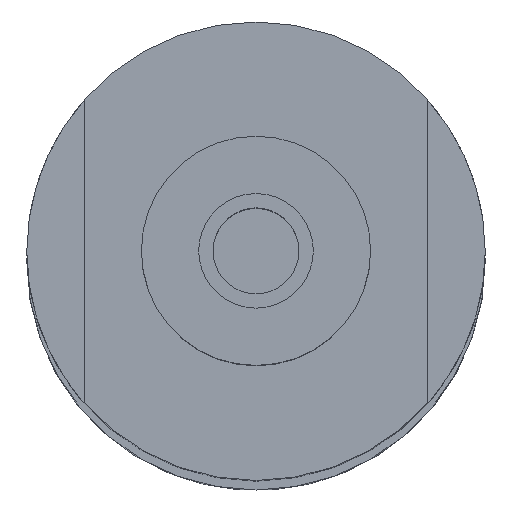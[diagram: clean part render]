
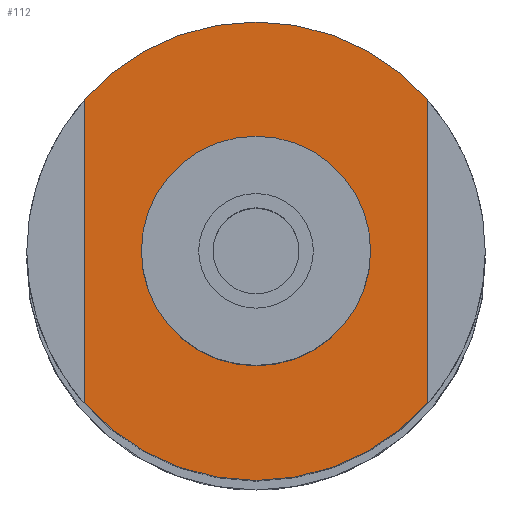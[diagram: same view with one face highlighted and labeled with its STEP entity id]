
A CAD part, top view. The second image highlights one B-rep face of the part: STEP entity #112.
In plain terms, the highlighted planar face has unit normal (0, 0, 1).
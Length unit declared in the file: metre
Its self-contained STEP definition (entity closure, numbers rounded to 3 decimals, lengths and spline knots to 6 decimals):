
#112=ADVANCED_FACE('24:1171',(#226,#227),#228,.T.);
#226=FACE_BOUND('',#347,.T.);
#227=FACE_OUTER_BOUND('',#348,.T.);
#228=PLANE('',#349);
#347=EDGE_LOOP('',(#578,#579));
#348=EDGE_LOOP('',(#580,#581,#582,#583));
#349=AXIS2_PLACEMENT_3D('',#584,#585,#586);
#578=ORIENTED_EDGE('',*,*,#668,.F.);
#579=ORIENTED_EDGE('',*,*,#749,.F.);
#580=ORIENTED_EDGE('',*,*,#735,.F.);
#581=ORIENTED_EDGE('',*,*,#680,.F.);
#582=ORIENTED_EDGE('',*,*,#741,.T.);
#583=ORIENTED_EDGE('',*,*,#744,.F.);
#584=CARTESIAN_POINT('',(0.,0.,0.45));
#585=DIRECTION('',(0.0,0.0,1.0));
#586=DIRECTION('',(1.0,0.0,0.0));
#668=EDGE_CURVE('24:490',#783,#779,#785,.T.);
#680=EDGE_CURVE('24:1187',#805,#807,#808,.F.);
#735=EDGE_CURVE('24:2122',#807,#888,#889,.T.);
#741=EDGE_CURVE('24:2109',#805,#896,#898,.T.);
#744=EDGE_CURVE('24:1196',#888,#896,#901,.F.);
#749=EDGE_CURVE('',#779,#783,#906,.T.);
#779=VERTEX_POINT('',#948);
#783=VERTEX_POINT('',#953);
#785=CIRCLE('',#956,0.004);
#805=VERTEX_POINT('',#980);
#807=VERTEX_POINT('',#983);
#808=CIRCLE('',#984,0.008);
#888=VERTEX_POINT('',#1081);
#889=LINE('',#1082,#1083);
#896=VERTEX_POINT('',#1093);
#898=LINE('',#1096,#1097);
#901=CIRCLE('',#1100,0.008);
#906=CIRCLE('',#1105,0.004);
#948=CARTESIAN_POINT('',(-0.00411,0.000133,0.45));
#953=CARTESIAN_POINT('',(0.00389,0.000133,0.45));
#956=AXIS2_PLACEMENT_3D('',#1154,#1155,#1156);
#980=CARTESIAN_POINT('',(-0.00611,0.005425,0.45));
#983=CARTESIAN_POINT('',(0.00589,0.005425,0.45));
#984=AXIS2_PLACEMENT_3D('',#1174,#1175,#1176);
#1081=CARTESIAN_POINT('',(0.00589,-0.005158,0.45));
#1082=CARTESIAN_POINT('',(0.00589,0.008133,0.45));
#1083=VECTOR('',#1257,1.0);
#1093=CARTESIAN_POINT('',(-0.00611,-0.005158,0.45));
#1096=CARTESIAN_POINT('',(-0.00611,0.008133,0.45));
#1097=VECTOR('',#1262,1.0);
#1100=AXIS2_PLACEMENT_3D('',#1266,#1267,#1268);
#1105=AXIS2_PLACEMENT_3D('',#1275,#1276,#1277);
#1154=CARTESIAN_POINT('',(-0.00011,0.000133,0.45));
#1155=DIRECTION('',(0.0,0.0,1.0));
#1156=DIRECTION('',(1.0,0.0,-0.0));
#1174=CARTESIAN_POINT('',(-0.00011,0.000133,0.45));
#1175=DIRECTION('',(0.0,0.0,1.0));
#1176=DIRECTION('',(1.0,0.0,0.0));
#1257=DIRECTION('',(0.,-1.0,0.0));
#1262=DIRECTION('',(0.,-1.0,0.0));
#1266=CARTESIAN_POINT('',(-0.00011,0.000133,0.45));
#1267=DIRECTION('',(0.0,0.0,1.0));
#1268=DIRECTION('',(1.0,0.0,0.0));
#1275=CARTESIAN_POINT('',(-0.00011,0.000133,0.45));
#1276=DIRECTION('',(0.0,0.0,1.0));
#1277=DIRECTION('',(1.0,0.0,-0.0));
